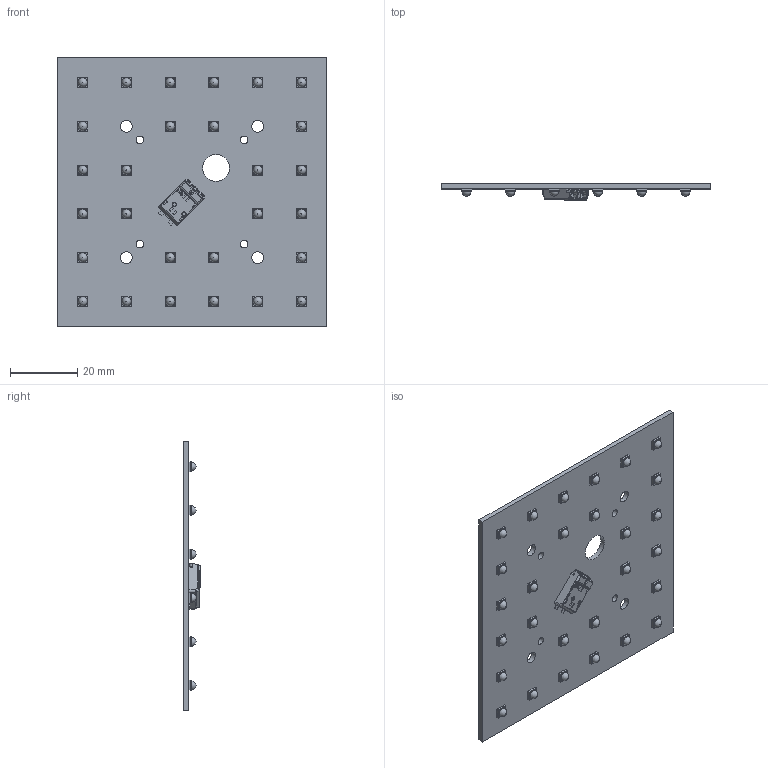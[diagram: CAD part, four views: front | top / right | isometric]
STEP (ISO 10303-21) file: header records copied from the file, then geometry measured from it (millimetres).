
FILE_DESCRIPTION(/* description */ ('Unknown'),/* implementation_level */ '2;1');
FILE_NAME(/* name */ 'RecLED 80x80mm 6800lm 28-IP Opt G2 sh-000 2020-11-10',/* time_stamp */ '2020-11-10T10:37:28+01:00',/* author */ ('Unknown'),/* organization */ ('Unknown'),/* preprocessor_version */ 'ST-DEVELOPER v16.7',/* originating_system */ 'Solid Edge',/* authorisation */ 'Unknown');
FILE_SCHEMA (('AUTOMOTIVE_DESIGN { 1 0 10303 214 3 1 1 }','AUTOMOTIVE_DESIGN {1 0 10303 214 3 1 1}'));
Length unit declared in the file: millimetre
Products named in the file (1): RecLED 80x80mm 6800lm 28-IP Opt G2 sh-000 2020-11-10
Bounding box: 80 x 4.95 x 80 mm (x, y, z)
Volume: 10012.3 mm3; surface area: 14183.3 mm2
Topology: 1 solids, 1 shells, 1482 faces, 3997 edges, 2572 vertices
Faces by surface type: plane 697, cylinder 595, bspline 87, torus 67, cone 26, sphere 10
Full cylindrical faces by diameter (mm): 2.2 x4, 3.5 x4, 8 x1
Entity records: 58670 total; most frequent: CARTESIAN_POINT 11349, ORIENTED_EDGE 7714, DIRECTION 7442, EDGE_CURVE 3857, VERTEX_POINT 2539, AXIS2_PLACEMENT_3D 2515, LINE 2412, VECTOR 2412
